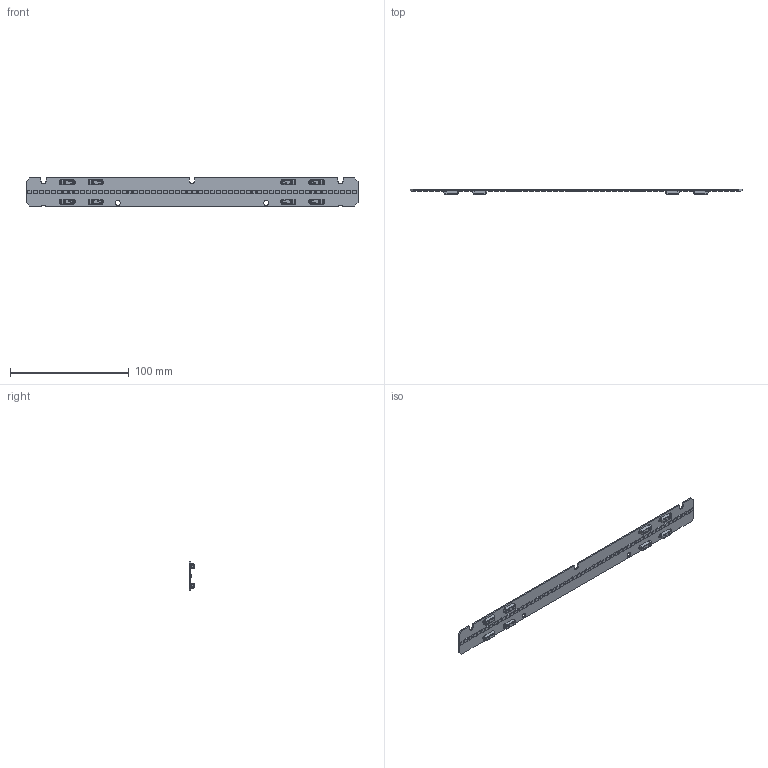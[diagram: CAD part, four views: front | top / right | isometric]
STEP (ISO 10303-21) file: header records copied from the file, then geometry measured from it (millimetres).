
FILE_DESCRIPTION(/* description */ ('Unknown'),/* implementation_level */ '2;1');
FILE_NAME(/* name */ 'LinLED 280x24mm 2x1000lm 827-865 2x4C 42V Opt G1',/* time_stamp */ '2022-06-13T06:41:14+02:00',/* author */ ('Unknown'),/* organization */ ('Unknown'),/* preprocessor_version */ 'ST-DEVELOPER v16.7',/* originating_system */ 'Solid Edge',/* authorisation */ 'Unknown');
FILE_SCHEMA (('AUTOMOTIVE_DESIGN {1 0 10303 214 3 1 1}'));
Length unit declared in the file: millimetre
Products named in the file (5): LinLED 280x24mm 2x1000lm 827-865 2x4C 42V Opt G1; 280x24mm; 4010-411-12510 Sh-000 2016-11-03; LED 2835 WW; LED 2835 CW
Assembly tree (65 placements, depth 2):
  LinLED 280x24mm 2x1000lm 827-865 2x4C 42V Opt G1
    280x24mm
    4010-411-12510 Sh-000 2016-11-03  x8
    LED 2835 WW  x28
    LED 2835 CW  x28
Bounding box: 279.5 x 4.45 x 24 mm (x, y, z)
Volume: 7903.7 mm3; surface area: 17159.5 mm2
Topology: 65 solids, 65 shells, 2892 faces, 7294 edges, 4588 vertices
Faces by surface type: plane 1735, cylinder 517, bspline 416, cone 120, sphere 64, torus 40
Full cylindrical faces by diameter (mm): 4.3 x2
Entity records: 11734 total; most frequent: CARTESIAN_POINT 3781, ORIENTED_EDGE 1554, DIRECTION 1373, EDGE_CURVE 777, VERTEX_POINT 490, AXIS2_PLACEMENT_3D 463, LINE 447, VECTOR 447
